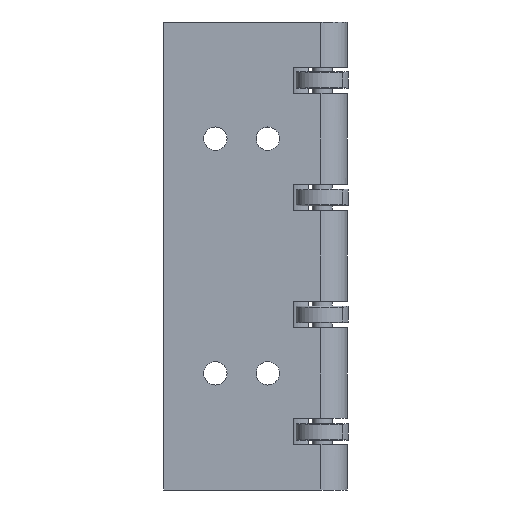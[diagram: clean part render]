
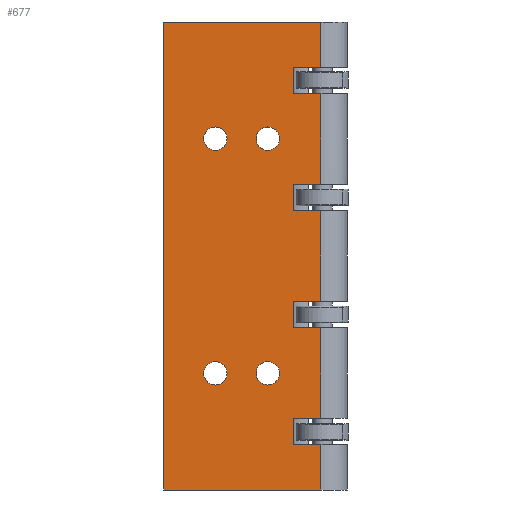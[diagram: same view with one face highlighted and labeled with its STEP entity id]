
A CAD part, front view. The second image highlights one B-rep face of the part: STEP entity #677.
In plain terms, the highlighted planar face has unit normal (0, -1, 0).
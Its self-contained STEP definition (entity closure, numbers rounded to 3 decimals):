
#101=CARTESIAN_POINT('Vertex',(47.,0.,-58.85)) ;
#104=CARTESIAN_POINT('Line Origine',(47.,0.,-63.6)) ;
#108=CARTESIAN_POINT('Vertex',(47.,0.,-68.35)) ;
#139=CARTESIAN_POINT('Vertex',(57.,0.,-58.85)) ;
#142=CARTESIAN_POINT('Line Origine',(52.,0.,-58.85)) ;
#402=CARTESIAN_POINT('Line Origine',(52.,0.,-68.35)) ;
#406=CARTESIAN_POINT('Vertex',(57.,0.,-68.35)) ;
#461=CARTESIAN_POINT('Axis2P3D Location',(0.,0.,0.)) ;
#466=CARTESIAN_POINT('Line Origine',(57.,0.,-42.4)) ;
#470=CARTESIAN_POINT('Vertex',(57.,0.,-25.95)) ;
#473=CARTESIAN_POINT('Line Origine',(52.,0.,-25.95)) ;
#477=CARTESIAN_POINT('Vertex',(47.,0.,-25.95)) ;
#480=CARTESIAN_POINT('Line Origine',(47.,0.,-21.2)) ;
#484=CARTESIAN_POINT('Vertex',(47.,0.,-16.45)) ;
#487=CARTESIAN_POINT('Line Origine',(52.,0.,-16.45)) ;
#491=CARTESIAN_POINT('Vertex',(57.,0.,-16.45)) ;
#494=CARTESIAN_POINT('Line Origine',(57.,0.,0.)) ;
#498=CARTESIAN_POINT('Vertex',(57.,0.,16.45)) ;
#501=CARTESIAN_POINT('Line Origine',(52.,0.,16.45)) ;
#505=CARTESIAN_POINT('Vertex',(47.,0.,16.45)) ;
#508=CARTESIAN_POINT('Line Origine',(47.,0.,21.2)) ;
#512=CARTESIAN_POINT('Vertex',(47.,0.,25.95)) ;
#515=CARTESIAN_POINT('Line Origine',(52.,0.,25.95)) ;
#519=CARTESIAN_POINT('Vertex',(57.,0.,25.95)) ;
#522=CARTESIAN_POINT('Line Origine',(57.,0.,42.4)) ;
#526=CARTESIAN_POINT('Vertex',(57.,0.,58.85)) ;
#529=CARTESIAN_POINT('Line Origine',(52.,0.,58.85)) ;
#533=CARTESIAN_POINT('Vertex',(47.,0.,58.85)) ;
#536=CARTESIAN_POINT('Line Origine',(47.,0.,63.6)) ;
#540=CARTESIAN_POINT('Vertex',(47.,0.,68.35)) ;
#543=CARTESIAN_POINT('Line Origine',(52.,0.,68.35)) ;
#547=CARTESIAN_POINT('Vertex',(57.,0.,68.35)) ;
#550=CARTESIAN_POINT('Line Origine',(57.,0.,76.575)) ;
#554=CARTESIAN_POINT('Vertex',(57.,0.,84.8)) ;
#557=CARTESIAN_POINT('Line Origine',(28.5,0.,84.8)) ;
#561=CARTESIAN_POINT('Vertex',(0.,0.,84.8)) ;
#564=CARTESIAN_POINT('Line Origine',(0.,0.,0.)) ;
#568=CARTESIAN_POINT('Vertex',(0.,0.,-84.8)) ;
#571=CARTESIAN_POINT('Line Origine',(28.5,0.,-84.8)) ;
#575=CARTESIAN_POINT('Vertex',(57.,0.,-84.8)) ;
#578=CARTESIAN_POINT('Line Origine',(57.,0.,-76.575)) ;
#605=CARTESIAN_POINT('Axis2P3D Location',(18.75,0.,42.5)) ;
#609=CARTESIAN_POINT('Vertex',(23.,0.,42.5)) ;
#611=CARTESIAN_POINT('Vertex',(14.5,0.,42.5)) ;
#614=CARTESIAN_POINT('Axis2P3D Location',(18.75,0.,42.5)) ;
#623=CARTESIAN_POINT('Axis2P3D Location',(37.8,0.,42.5)) ;
#627=CARTESIAN_POINT('Vertex',(42.05,0.,42.5)) ;
#629=CARTESIAN_POINT('Vertex',(33.55,0.,42.5)) ;
#632=CARTESIAN_POINT('Axis2P3D Location',(37.8,0.,42.5)) ;
#641=CARTESIAN_POINT('Axis2P3D Location',(18.75,0.,-42.5)) ;
#645=CARTESIAN_POINT('Vertex',(23.,0.,-42.5)) ;
#647=CARTESIAN_POINT('Vertex',(14.5,0.,-42.5)) ;
#650=CARTESIAN_POINT('Axis2P3D Location',(18.75,0.,-42.5)) ;
#659=CARTESIAN_POINT('Axis2P3D Location',(37.8,0.,-42.5)) ;
#663=CARTESIAN_POINT('Vertex',(42.05,0.,-42.5)) ;
#665=CARTESIAN_POINT('Vertex',(33.55,0.,-42.5)) ;
#668=CARTESIAN_POINT('Axis2P3D Location',(37.8,0.,-42.5)) ;
#105=DIRECTION('Vector Direction',(0.,0.,1.)) ;
#143=DIRECTION('Vector Direction',(1.,0.,0.)) ;
#403=DIRECTION('Vector Direction',(1.,0.,0.)) ;
#462=DIRECTION('Axis2P3D Direction',(0.,-1.,0.)) ;
#463=DIRECTION('Axis2P3D XDirection',(0.,0.,-1.)) ;
#467=DIRECTION('Vector Direction',(0.,0.,1.)) ;
#474=DIRECTION('Vector Direction',(1.,0.,0.)) ;
#481=DIRECTION('Vector Direction',(0.,0.,1.)) ;
#488=DIRECTION('Vector Direction',(1.,0.,0.)) ;
#495=DIRECTION('Vector Direction',(0.,0.,1.)) ;
#502=DIRECTION('Vector Direction',(1.,0.,0.)) ;
#509=DIRECTION('Vector Direction',(0.,0.,1.)) ;
#516=DIRECTION('Vector Direction',(1.,0.,0.)) ;
#523=DIRECTION('Vector Direction',(0.,0.,1.)) ;
#530=DIRECTION('Vector Direction',(-1.,0.,0.)) ;
#537=DIRECTION('Vector Direction',(0.,0.,1.)) ;
#544=DIRECTION('Vector Direction',(-1.,0.,0.)) ;
#551=DIRECTION('Vector Direction',(0.,0.,1.)) ;
#558=DIRECTION('Vector Direction',(1.,0.,0.)) ;
#565=DIRECTION('Vector Direction',(0.,0.,1.)) ;
#572=DIRECTION('Vector Direction',(1.,0.,0.)) ;
#579=DIRECTION('Vector Direction',(0.,0.,1.)) ;
#606=DIRECTION('Axis2P3D Direction',(0.,-1.,0.)) ;
#615=DIRECTION('Axis2P3D Direction',(0.,-1.,0.)) ;
#624=DIRECTION('Axis2P3D Direction',(0.,-1.,0.)) ;
#633=DIRECTION('Axis2P3D Direction',(0.,-1.,0.)) ;
#642=DIRECTION('Axis2P3D Direction',(0.,-1.,0.)) ;
#651=DIRECTION('Axis2P3D Direction',(0.,-1.,0.)) ;
#660=DIRECTION('Axis2P3D Direction',(0.,-1.,0.)) ;
#669=DIRECTION('Axis2P3D Direction',(0.,-1.,0.)) ;
#464=AXIS2_PLACEMENT_3D('Plane Axis2P3D',#461,#462,#463) ;
#607=AXIS2_PLACEMENT_3D('Circle Axis2P3D',#605,#606,$) ;
#616=AXIS2_PLACEMENT_3D('Circle Axis2P3D',#614,#615,$) ;
#625=AXIS2_PLACEMENT_3D('Circle Axis2P3D',#623,#624,$) ;
#634=AXIS2_PLACEMENT_3D('Circle Axis2P3D',#632,#633,$) ;
#643=AXIS2_PLACEMENT_3D('Circle Axis2P3D',#641,#642,$) ;
#652=AXIS2_PLACEMENT_3D('Circle Axis2P3D',#650,#651,$) ;
#661=AXIS2_PLACEMENT_3D('Circle Axis2P3D',#659,#660,$) ;
#670=AXIS2_PLACEMENT_3D('Circle Axis2P3D',#668,#669,$) ;
#584=ORIENTED_EDGE('',*,*,#472,.T.) ;
#585=ORIENTED_EDGE('',*,*,#479,.F.) ;
#586=ORIENTED_EDGE('',*,*,#486,.T.) ;
#587=ORIENTED_EDGE('',*,*,#493,.T.) ;
#588=ORIENTED_EDGE('',*,*,#500,.T.) ;
#589=ORIENTED_EDGE('',*,*,#507,.F.) ;
#590=ORIENTED_EDGE('',*,*,#514,.T.) ;
#591=ORIENTED_EDGE('',*,*,#521,.T.) ;
#592=ORIENTED_EDGE('',*,*,#528,.T.) ;
#593=ORIENTED_EDGE('',*,*,#535,.T.) ;
#594=ORIENTED_EDGE('',*,*,#542,.T.) ;
#595=ORIENTED_EDGE('',*,*,#549,.F.) ;
#596=ORIENTED_EDGE('',*,*,#556,.T.) ;
#597=ORIENTED_EDGE('',*,*,#563,.F.) ;
#598=ORIENTED_EDGE('',*,*,#570,.F.) ;
#599=ORIENTED_EDGE('',*,*,#577,.T.) ;
#600=ORIENTED_EDGE('',*,*,#582,.T.) ;
#601=ORIENTED_EDGE('',*,*,#408,.F.) ;
#602=ORIENTED_EDGE('',*,*,#110,.T.) ;
#603=ORIENTED_EDGE('',*,*,#146,.T.) ;
#620=ORIENTED_EDGE('',*,*,#613,.F.) ;
#621=ORIENTED_EDGE('',*,*,#618,.F.) ;
#638=ORIENTED_EDGE('',*,*,#631,.F.) ;
#639=ORIENTED_EDGE('',*,*,#636,.F.) ;
#656=ORIENTED_EDGE('',*,*,#649,.F.) ;
#657=ORIENTED_EDGE('',*,*,#654,.F.) ;
#674=ORIENTED_EDGE('',*,*,#667,.F.) ;
#675=ORIENTED_EDGE('',*,*,#672,.F.) ;
#622=FACE_BOUND('',#619,.T.) ;
#640=FACE_BOUND('',#637,.T.) ;
#658=FACE_BOUND('',#655,.T.) ;
#676=FACE_BOUND('',#673,.T.) ;
#106=VECTOR('Line Direction',#105,1.) ;
#144=VECTOR('Line Direction',#143,1.) ;
#404=VECTOR('Line Direction',#403,1.) ;
#468=VECTOR('Line Direction',#467,1.) ;
#475=VECTOR('Line Direction',#474,1.) ;
#482=VECTOR('Line Direction',#481,1.) ;
#489=VECTOR('Line Direction',#488,1.) ;
#496=VECTOR('Line Direction',#495,1.) ;
#503=VECTOR('Line Direction',#502,1.) ;
#510=VECTOR('Line Direction',#509,1.) ;
#517=VECTOR('Line Direction',#516,1.) ;
#524=VECTOR('Line Direction',#523,1.) ;
#531=VECTOR('Line Direction',#530,1.) ;
#538=VECTOR('Line Direction',#537,1.) ;
#545=VECTOR('Line Direction',#544,1.) ;
#552=VECTOR('Line Direction',#551,1.) ;
#559=VECTOR('Line Direction',#558,1.) ;
#566=VECTOR('Line Direction',#565,1.) ;
#573=VECTOR('Line Direction',#572,1.) ;
#580=VECTOR('Line Direction',#579,1.) ;
#677=ADVANCED_FACE('1',(#604,#622,#640,#658,#676),#465,.T.) ;
#608=CIRCLE('generated circle',#607,4.25) ;
#617=CIRCLE('generated circle',#616,4.25) ;
#626=CIRCLE('generated circle',#625,4.25) ;
#635=CIRCLE('generated circle',#634,4.25) ;
#644=CIRCLE('generated circle',#643,4.25) ;
#653=CIRCLE('generated circle',#652,4.25) ;
#662=CIRCLE('generated circle',#661,4.25) ;
#671=CIRCLE('generated circle',#670,4.25) ;
#110=EDGE_CURVE('',#109,#102,#107,.T.) ;
#146=EDGE_CURVE('',#102,#140,#145,.T.) ;
#408=EDGE_CURVE('',#109,#407,#405,.T.) ;
#472=EDGE_CURVE('',#140,#471,#469,.T.) ;
#479=EDGE_CURVE('',#478,#471,#476,.T.) ;
#486=EDGE_CURVE('',#478,#485,#483,.T.) ;
#493=EDGE_CURVE('',#485,#492,#490,.T.) ;
#500=EDGE_CURVE('',#492,#499,#497,.T.) ;
#507=EDGE_CURVE('',#506,#499,#504,.T.) ;
#514=EDGE_CURVE('',#506,#513,#511,.T.) ;
#521=EDGE_CURVE('',#513,#520,#518,.T.) ;
#528=EDGE_CURVE('',#520,#527,#525,.T.) ;
#535=EDGE_CURVE('',#527,#534,#532,.T.) ;
#542=EDGE_CURVE('',#534,#541,#539,.T.) ;
#549=EDGE_CURVE('',#548,#541,#546,.T.) ;
#556=EDGE_CURVE('',#548,#555,#553,.T.) ;
#563=EDGE_CURVE('',#562,#555,#560,.T.) ;
#570=EDGE_CURVE('',#569,#562,#567,.T.) ;
#577=EDGE_CURVE('',#569,#576,#574,.T.) ;
#582=EDGE_CURVE('',#576,#407,#581,.T.) ;
#613=EDGE_CURVE('',#610,#612,#608,.T.) ;
#618=EDGE_CURVE('',#612,#610,#617,.T.) ;
#631=EDGE_CURVE('',#628,#630,#626,.T.) ;
#636=EDGE_CURVE('',#630,#628,#635,.T.) ;
#649=EDGE_CURVE('',#646,#648,#644,.T.) ;
#654=EDGE_CURVE('',#648,#646,#653,.T.) ;
#667=EDGE_CURVE('',#664,#666,#662,.T.) ;
#672=EDGE_CURVE('',#666,#664,#671,.T.) ;
#583=EDGE_LOOP('',(#584,#585,#586,#587,#588,#589,#590,#591,#592,#593,#594,#595,#596,#597,#598,#599,#600,#601,#602,#603)) ;
#619=EDGE_LOOP('',(#620,#621)) ;
#637=EDGE_LOOP('',(#638,#639)) ;
#655=EDGE_LOOP('',(#656,#657)) ;
#673=EDGE_LOOP('',(#674,#675)) ;
#604=FACE_OUTER_BOUND('',#583,.T.) ;
#107=LINE('Line',#104,#106) ;
#145=LINE('Line',#142,#144) ;
#405=LINE('Line',#402,#404) ;
#469=LINE('Line',#466,#468) ;
#476=LINE('Line',#473,#475) ;
#483=LINE('Line',#480,#482) ;
#490=LINE('Line',#487,#489) ;
#497=LINE('Line',#494,#496) ;
#504=LINE('Line',#501,#503) ;
#511=LINE('Line',#508,#510) ;
#518=LINE('Line',#515,#517) ;
#525=LINE('Line',#522,#524) ;
#532=LINE('Line',#529,#531) ;
#539=LINE('Line',#536,#538) ;
#546=LINE('Line',#543,#545) ;
#553=LINE('Line',#550,#552) ;
#560=LINE('Line',#557,#559) ;
#567=LINE('Line',#564,#566) ;
#574=LINE('Line',#571,#573) ;
#581=LINE('Line',#578,#580) ;
#465=PLANE('',#464) ;
#102=VERTEX_POINT('',#101) ;
#109=VERTEX_POINT('',#108) ;
#140=VERTEX_POINT('',#139) ;
#407=VERTEX_POINT('',#406) ;
#471=VERTEX_POINT('',#470) ;
#478=VERTEX_POINT('',#477) ;
#485=VERTEX_POINT('',#484) ;
#492=VERTEX_POINT('',#491) ;
#499=VERTEX_POINT('',#498) ;
#506=VERTEX_POINT('',#505) ;
#513=VERTEX_POINT('',#512) ;
#520=VERTEX_POINT('',#519) ;
#527=VERTEX_POINT('',#526) ;
#534=VERTEX_POINT('',#533) ;
#541=VERTEX_POINT('',#540) ;
#548=VERTEX_POINT('',#547) ;
#555=VERTEX_POINT('',#554) ;
#562=VERTEX_POINT('',#561) ;
#569=VERTEX_POINT('',#568) ;
#576=VERTEX_POINT('',#575) ;
#610=VERTEX_POINT('',#609) ;
#612=VERTEX_POINT('',#611) ;
#628=VERTEX_POINT('',#627) ;
#630=VERTEX_POINT('',#629) ;
#646=VERTEX_POINT('',#645) ;
#648=VERTEX_POINT('',#647) ;
#664=VERTEX_POINT('',#663) ;
#666=VERTEX_POINT('',#665) ;
